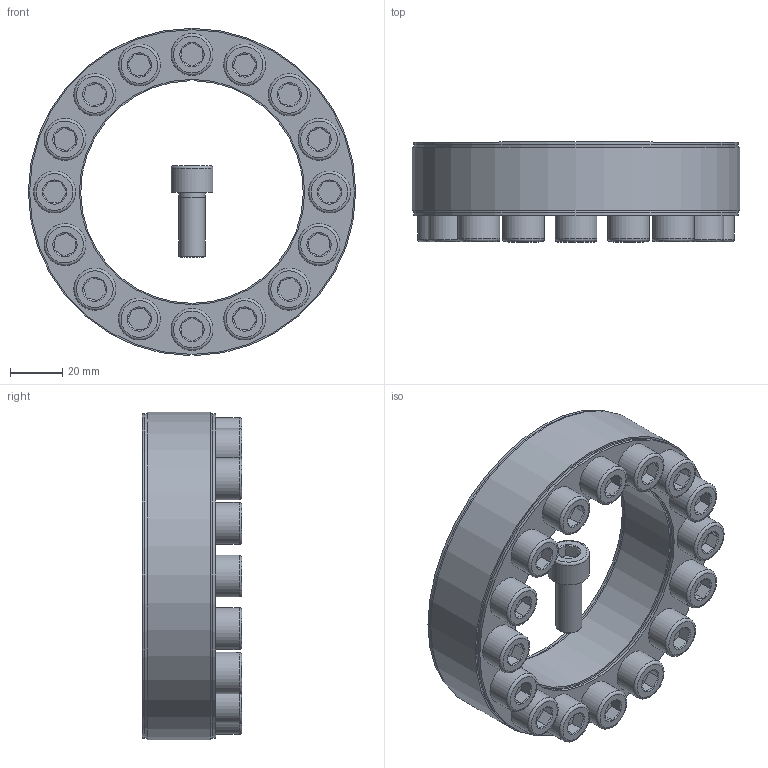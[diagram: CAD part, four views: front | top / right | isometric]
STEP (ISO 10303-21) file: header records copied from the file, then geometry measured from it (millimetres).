
FILE_DESCRIPTION( ( 'Unknown' ), '1' );
FILE_NAME( 'C:/Dokumente und Einstellungen/Sven/Desktop/homepage/cad - homepage/KBS40/KBS 40 - 85 x 125.stp', 'Unknown', ( 'Unknown' ), ( 'Unknown' ), 'XStep 1.0', 'Unknown', ' ' );
FILE_SCHEMA( ( 'automotive_design' ) );
Length unit declared in the file: millimetre
Products named in the file (18): Assem1; KBS 40 85x125; ISO 4762 M10x25; ISO 4762 M10x25-oa0; ISO 4762 M10x25-oa1; ISO 4762 M10x25-oa2; ISO 4762 M10x25-oa3; ISO 4762 M10x25-oa4; ISO 4762 M10x25-oa5; ISO 4762 M10x25-oa6; ISO 4762 M10x25-oa7; ISO 4762 M10x25-oa8; ISO 4762 M10x25-oa9; ISO 4762 M10x25-oa10; ISO 4762 M10x25-oa11; ISO 4762 M10x25-oa12; ISO 4762 M10x25-oa13; ISO 4762 M10x25-oa14
Bounding box: 125 x 38 x 124.99 mm (x, y, z)
Volume: 413655.1 mm3; surface area: 145551.6 mm2
Topology: 34 solids, 34 shells, 892 faces, 1644 edges, 948 vertices
Faces by surface type: plane 424, cone 232, cylinder 172, torus 64
Full cylindrical faces by diameter (mm): 9 x32, 10 x96, 16 x32, 86 x4, 124 x4
Entity records: 10927 total; most frequent: CARTESIAN_POINT 2292, DIRECTION 1808, ORIENTED_EDGE 1304, AXIS2_PLACEMENT_3D 788, EDGE_LOOP 680, EDGE_CURVE 652, FACE_OUTER_BOUND 562, ADVANCED_FACE 446
